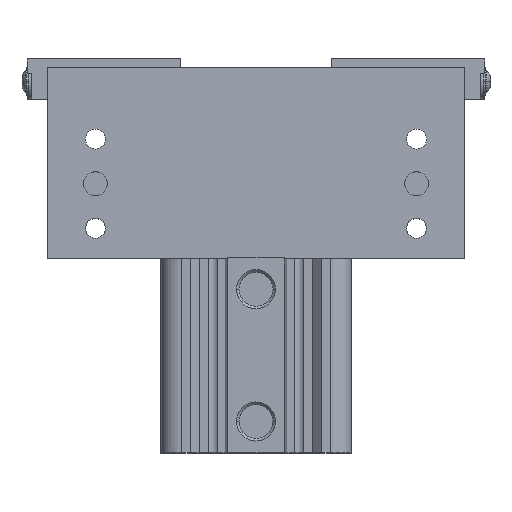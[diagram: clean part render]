
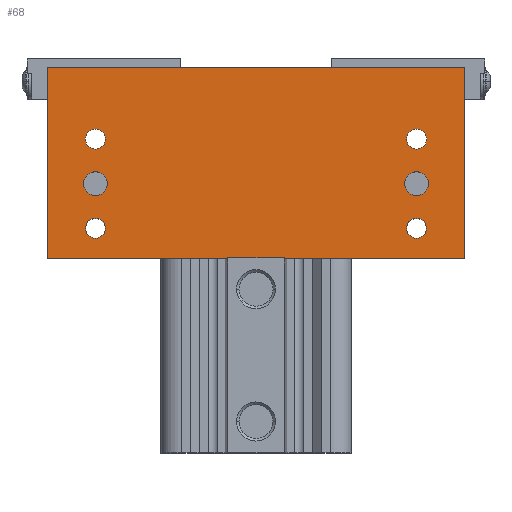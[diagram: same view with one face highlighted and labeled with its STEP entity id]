
A CAD part, top view. The second image highlights one B-rep face of the part: STEP entity #68.
In plain terms, the highlighted planar face has unit normal (0, 0, 1).
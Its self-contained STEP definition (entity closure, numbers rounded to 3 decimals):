
#68 = ADVANCED_FACE ( 'NONE', ( #5701, #5705, #5703, #5704, #5702, #5706, #5707 ), #1444, .F. ) ;
#107 = VERTEX_POINT ( 'NONE', #1485 ) ;
#208 = EDGE_LOOP ( 'NONE', ( #5200, #5199 ) ) ;
#209 = EDGE_LOOP ( 'NONE', ( #5206, #5205 ) ) ;
#210 = EDGE_LOOP ( 'NONE', ( #5204, #5203 ) ) ;
#211 = EDGE_LOOP ( 'NONE', ( #5202, #5201 ) ) ;
#214 = EDGE_LOOP ( 'NONE', ( #5198, #5197 ) ) ;
#216 = EDGE_LOOP ( 'NONE', ( #5196, #5195 ) ) ;
#217 = EDGE_LOOP ( 'NONE', ( #5194, #5193, #5192, #5191 ) ) ;
#225 = EDGE_CURVE ( 'NONE', #107, #5494, #5726, .T. ) ;
#229 = EDGE_CURVE ( 'NONE', #4966, #4967, #5733, .T. ) ;
#232 = EDGE_CURVE ( 'NONE', #4967, #4966, #5739, .T. ) ;
#234 = EDGE_CURVE ( 'NONE', #5494, #107, #5737, .T. ) ;
#236 = EDGE_CURVE ( 'NONE', #6895, #6896, #5741, .T. ) ;
#238 = EDGE_CURVE ( 'NONE', #5578, #4963, #5744, .T. ) ;
#247 = EDGE_CURVE ( 'NONE', #4977, #4979, #5761, .T. ) ;
#250 = EDGE_CURVE ( 'NONE', #4956, #4955, #5765, .T. ) ;
#251 = EDGE_CURVE ( 'NONE', #4960, #4959, #5767, .T. ) ;
#252 = EDGE_CURVE ( 'NONE', #4979, #4980, #5769, .T. ) ;
#253 = EDGE_CURVE ( 'NONE', #4976, #4980, #5771, .T. ) ;
#254 = EDGE_CURVE ( 'NONE', #4977, #4976, #5770, .T. ) ;
#1441 = DIRECTION ( 'NONE',  ( 0., 0., -1. ) ) ;
#1444 = PLANE ( 'NONE',  #6360 ) ;
#1449 = CARTESIAN_POINT ( 'NONE',  ( -70., 64., 34. ) ) ;
#1450 = DIRECTION ( 'NONE',  ( -1., 0., 0. ) ) ;
#1485 = CARTESIAN_POINT ( 'NONE',  ( 50.625, 10., 34. ) ) ;
#1487 = CARTESIAN_POINT ( 'NONE',  ( 54., 10., 34. ) ) ;
#1488 = DIRECTION ( 'NONE',  ( 0., 0., 1. ) ) ;
#1489 = DIRECTION ( 'NONE',  ( 1., 0., 0. ) ) ;
#1497 = CARTESIAN_POINT ( 'NONE',  ( 54., 40., 34. ) ) ;
#1498 = DIRECTION ( 'NONE',  ( 0., 0., 1. ) ) ;
#1499 = DIRECTION ( 'NONE',  ( 1., 0., 0. ) ) ;
#1503 = CARTESIAN_POINT ( 'NONE',  ( 54., 40., 34. ) ) ;
#1504 = DIRECTION ( 'NONE',  ( 0., 0., 1. ) ) ;
#1505 = DIRECTION ( 'NONE',  ( 1., 0., 0. ) ) ;
#1511 = CARTESIAN_POINT ( 'NONE',  ( 54., 10., 34. ) ) ;
#1512 = DIRECTION ( 'NONE',  ( 0., 0., 1. ) ) ;
#1513 = DIRECTION ( 'NONE',  ( 1., 0., 0. ) ) ;
#1517 = CARTESIAN_POINT ( 'NONE',  ( -54., 10., 34. ) ) ;
#1518 = DIRECTION ( 'NONE',  ( 0., 0., 1. ) ) ;
#1519 = DIRECTION ( 'NONE',  ( 1., 0., 0. ) ) ;
#1525 = CARTESIAN_POINT ( 'NONE',  ( -54., 40., 34. ) ) ;
#1526 = DIRECTION ( 'NONE',  ( 0., 0., 1. ) ) ;
#1527 = DIRECTION ( 'NONE',  ( 1., 0., 0. ) ) ;
#1542 = CARTESIAN_POINT ( 'NONE',  ( -70., 64., 34. ) ) ;
#1543 = DIRECTION ( 'NONE',  ( 0., -1., 0. ) ) ;
#1546 = DIRECTION ( 'NONE',  ( 1., 0., 0. ) ) ;
#1547 = CARTESIAN_POINT ( 'NONE',  ( 54., 25., 34. ) ) ;
#1548 = DIRECTION ( 'NONE',  ( 0., 0., 1. ) ) ;
#1549 = DIRECTION ( 'NONE',  ( 1., 0., 0. ) ) ;
#1550 = CARTESIAN_POINT ( 'NONE',  ( -70., 64., 34. ) ) ;
#1551 = CARTESIAN_POINT ( 'NONE',  ( -70., 0., 34. ) ) ;
#1552 = CARTESIAN_POINT ( 'NONE',  ( -54., 25., 34. ) ) ;
#1553 = DIRECTION ( 'NONE',  ( 0., 0., 1. ) ) ;
#1554 = DIRECTION ( 'NONE',  ( 1., 0., 0. ) ) ;
#1555 = CARTESIAN_POINT ( 'NONE',  ( 70., 64., 34. ) ) ;
#1556 = DIRECTION ( 'NONE',  ( 0., -1., 0. ) ) ;
#1557 = DIRECTION ( 'NONE',  ( 1., 0., 0. ) ) ;
#2032 = CARTESIAN_POINT ( 'NONE',  ( 49.99, 25., 34. ) ) ;
#2033 = CARTESIAN_POINT ( 'NONE',  ( 58.01, 25., 34. ) ) ;
#2036 = CARTESIAN_POINT ( 'NONE',  ( -58.01, 25., 34. ) ) ;
#2037 = CARTESIAN_POINT ( 'NONE',  ( -49.99, 25., 34. ) ) ;
#2040 = CARTESIAN_POINT ( 'NONE',  ( -57.375, 40., 34. ) ) ;
#2041 = CARTESIAN_POINT ( 'NONE',  ( 50.625, 40., 34. ) ) ;
#2042 = CARTESIAN_POINT ( 'NONE',  ( 57.375, 40., 34. ) ) ;
#2051 = CARTESIAN_POINT ( 'NONE',  ( 70., 64., 34. ) ) ;
#2052 = CARTESIAN_POINT ( 'NONE',  ( -70., 64., 34. ) ) ;
#2054 = CARTESIAN_POINT ( 'NONE',  ( -70., 0., 34. ) ) ;
#2055 = CARTESIAN_POINT ( 'NONE',  ( 70., 0., 34. ) ) ;
#2136 = CARTESIAN_POINT ( 'NONE',  ( 57.375, 10., 34. ) ) ;
#2137 = CARTESIAN_POINT ( 'NONE',  ( -50.625, 40., 34. ) ) ;
#2289 = CARTESIAN_POINT ( 'NONE',  ( -50.625, 10., 34. ) ) ;
#2290 = CARTESIAN_POINT ( 'NONE',  ( -57.375, 10., 34. ) ) ;
#2585 = CARTESIAN_POINT ( 'NONE',  ( 54., 25., 34. ) ) ;
#2586 = DIRECTION ( 'NONE',  ( 0., 0., 1. ) ) ;
#2587 = DIRECTION ( 'NONE',  ( 1., 0., 0. ) ) ;
#2874 = CARTESIAN_POINT ( 'NONE',  ( -54., 25., 34. ) ) ;
#2875 = DIRECTION ( 'NONE',  ( 0., 0., 1. ) ) ;
#2876 = DIRECTION ( 'NONE',  ( 1., 0., 0. ) ) ;
#2884 = CARTESIAN_POINT ( 'NONE',  ( -54., 40., 34. ) ) ;
#2885 = DIRECTION ( 'NONE',  ( 0., 0., 1. ) ) ;
#2886 = DIRECTION ( 'NONE',  ( 1., 0., 0. ) ) ;
#2894 = CARTESIAN_POINT ( 'NONE',  ( -54., 10., 34. ) ) ;
#2895 = DIRECTION ( 'NONE',  ( 0., 0., 1. ) ) ;
#2896 = DIRECTION ( 'NONE',  ( 1., 0., 0. ) ) ;
#4646 = EDGE_CURVE ( 'NONE', #4955, #4956, #8668, .T. ) ;
#4758 = EDGE_CURVE ( 'NONE', #4959, #4960, #8819, .T. ) ;
#4762 = EDGE_CURVE ( 'NONE', #4963, #5578, #8833, .T. ) ;
#4766 = EDGE_CURVE ( 'NONE', #6896, #6895, #8839, .T. ) ;
#4955 = VERTEX_POINT ( 'NONE', #2032 ) ;
#4956 = VERTEX_POINT ( 'NONE', #2033 ) ;
#4959 = VERTEX_POINT ( 'NONE', #2036 ) ;
#4960 = VERTEX_POINT ( 'NONE', #2037 ) ;
#4963 = VERTEX_POINT ( 'NONE', #2040 ) ;
#4966 = VERTEX_POINT ( 'NONE', #2041 ) ;
#4967 = VERTEX_POINT ( 'NONE', #2042 ) ;
#4976 = VERTEX_POINT ( 'NONE', #2051 ) ;
#4977 = VERTEX_POINT ( 'NONE', #2052 ) ;
#4979 = VERTEX_POINT ( 'NONE', #2054 ) ;
#4980 = VERTEX_POINT ( 'NONE', #2055 ) ;
#5191 = ORIENTED_EDGE ( 'NONE', *, *, #247, .T. ) ;
#5192 = ORIENTED_EDGE ( 'NONE', *, *, #254, .F. ) ;
#5193 = ORIENTED_EDGE ( 'NONE', *, *, #253, .F. ) ;
#5194 = ORIENTED_EDGE ( 'NONE', *, *, #252, .T. ) ;
#5195 = ORIENTED_EDGE ( 'NONE', *, *, #4758, .F. ) ;
#5196 = ORIENTED_EDGE ( 'NONE', *, *, #251, .F. ) ;
#5197 = ORIENTED_EDGE ( 'NONE', *, *, #4646, .F. ) ;
#5198 = ORIENTED_EDGE ( 'NONE', *, *, #250, .F. ) ;
#5199 = ORIENTED_EDGE ( 'NONE', *, *, #229, .F. ) ;
#5200 = ORIENTED_EDGE ( 'NONE', *, *, #232, .F. ) ;
#5201 = ORIENTED_EDGE ( 'NONE', *, *, #225, .F. ) ;
#5202 = ORIENTED_EDGE ( 'NONE', *, *, #234, .F. ) ;
#5203 = ORIENTED_EDGE ( 'NONE', *, *, #4766, .F. ) ;
#5204 = ORIENTED_EDGE ( 'NONE', *, *, #236, .F. ) ;
#5205 = ORIENTED_EDGE ( 'NONE', *, *, #4762, .F. ) ;
#5206 = ORIENTED_EDGE ( 'NONE', *, *, #238, .F. ) ;
#5494 = VERTEX_POINT ( 'NONE', #2136 ) ;
#5578 = VERTEX_POINT ( 'NONE', #2137 ) ;
#5701 = FACE_BOUND ( 'NONE', #209, .T. ) ;
#5702 = FACE_BOUND ( 'NONE', #214, .T. ) ;
#5703 = FACE_BOUND ( 'NONE', #211, .T. ) ;
#5704 = FACE_BOUND ( 'NONE', #208, .T. ) ;
#5705 = FACE_BOUND ( 'NONE', #210, .T. ) ;
#5706 = FACE_BOUND ( 'NONE', #216, .T. ) ;
#5707 = FACE_OUTER_BOUND ( 'NONE', #217, .T. ) ;
#5726 = CIRCLE ( 'NONE', #6362, 3.375 ) ;
#5733 = CIRCLE ( 'NONE', #6373, 3.375 ) ;
#5737 = CIRCLE ( 'NONE', #6377, 3.375 ) ;
#5739 = CIRCLE ( 'NONE', #6375, 3.375 ) ;
#5741 = CIRCLE ( 'NONE', #6379, 3.375 ) ;
#5744 = CIRCLE ( 'NONE', #6381, 3.375 ) ;
#5761 = LINE ( 'NONE', #1542, #5764 ) ;
#5764 = VECTOR ( 'NONE', #1543, 1000. ) ;
#5765 = CIRCLE ( 'NONE', #6382, 4.01 ) ;
#5767 = CIRCLE ( 'NONE', #6383, 4.01 ) ;
#5769 = LINE ( 'NONE', #1551, #5772 ) ;
#5770 = LINE ( 'NONE', #1550, #5776 ) ;
#5771 = LINE ( 'NONE', #1555, #5774 ) ;
#5772 = VECTOR ( 'NONE', #1546, 1000. ) ;
#5774 = VECTOR ( 'NONE', #1556, 1000. ) ;
#5776 = VECTOR ( 'NONE', #1557, 1000. ) ;
#6360 = AXIS2_PLACEMENT_3D ( 'NONE', #1449, #1441, #1450 ) ;
#6362 = AXIS2_PLACEMENT_3D ( 'NONE', #1487, #1488, #1489 ) ;
#6373 = AXIS2_PLACEMENT_3D ( 'NONE', #1497, #1498, #1499 ) ;
#6375 = AXIS2_PLACEMENT_3D ( 'NONE', #1503, #1504, #1505 ) ;
#6377 = AXIS2_PLACEMENT_3D ( 'NONE', #1511, #1512, #1513 ) ;
#6379 = AXIS2_PLACEMENT_3D ( 'NONE', #1517, #1518, #1519 ) ;
#6381 = AXIS2_PLACEMENT_3D ( 'NONE', #1525, #1526, #1527 ) ;
#6382 = AXIS2_PLACEMENT_3D ( 'NONE', #1547, #1548, #1549 ) ;
#6383 = AXIS2_PLACEMENT_3D ( 'NONE', #1552, #1553, #1554 ) ;
#6638 = AXIS2_PLACEMENT_3D ( 'NONE', #2585, #2586, #2587 ) ;
#6703 = AXIS2_PLACEMENT_3D ( 'NONE', #2874, #2875, #2876 ) ;
#6705 = AXIS2_PLACEMENT_3D ( 'NONE', #2884, #2885, #2886 ) ;
#6707 = AXIS2_PLACEMENT_3D ( 'NONE', #2894, #2895, #2896 ) ;
#6895 = VERTEX_POINT ( 'NONE', #2289 ) ;
#6896 = VERTEX_POINT ( 'NONE', #2290 ) ;
#8668 = CIRCLE ( 'NONE', #6638, 4.01 ) ;
#8819 = CIRCLE ( 'NONE', #6703, 4.01 ) ;
#8833 = CIRCLE ( 'NONE', #6705, 3.375 ) ;
#8839 = CIRCLE ( 'NONE', #6707, 3.375 ) ;
